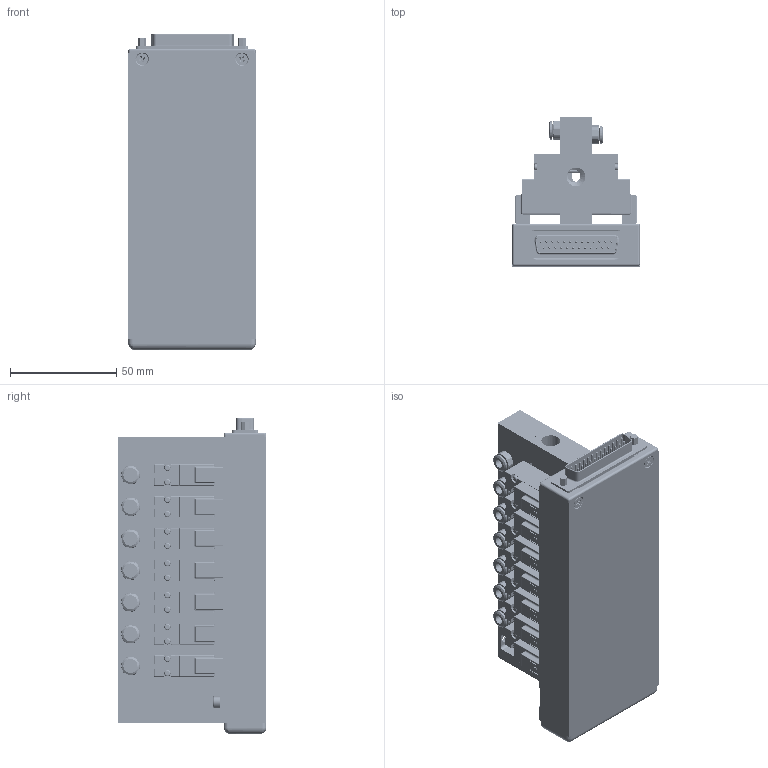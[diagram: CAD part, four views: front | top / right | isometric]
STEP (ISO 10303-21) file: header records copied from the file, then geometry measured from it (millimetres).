
FILE_DESCRIPTION (( 'STEP AP214' ), '1' );
FILE_NAME ('07_017_4.STEP', '2016-07-19T05:58:36', ( '' ), ( '' ), 'SwSTEP 2.0', 'SolidWorks 2016', '' );
FILE_SCHEMA (( 'AUTOMOTIVE_DESIGN' ));
Length unit declared in the file: millimetre
Products named in the file (1): 07_017_4
Bounding box: 60 x 70 x 148.83 mm (x, y, z)
Volume: 337817.1 mm3; surface area: 106494.1 mm2
Topology: 48 solids, 48 shells, 7452 faces, 19358 edges, 12400 vertices
Faces by surface type: plane 4033, bspline 1383, cylinder 1113, cone 483, torus 323, sphere 117
Entity records: 323331 total; most frequent: CARTESIAN_POINT 124421, ORIENTED_EDGE 38226, DIRECTION 30764, EDGE_CURVE 19113, LINE 12538, VECTOR 12538, VERTEX_POINT 12308, AXIS2_PLACEMENT_3D 9113
